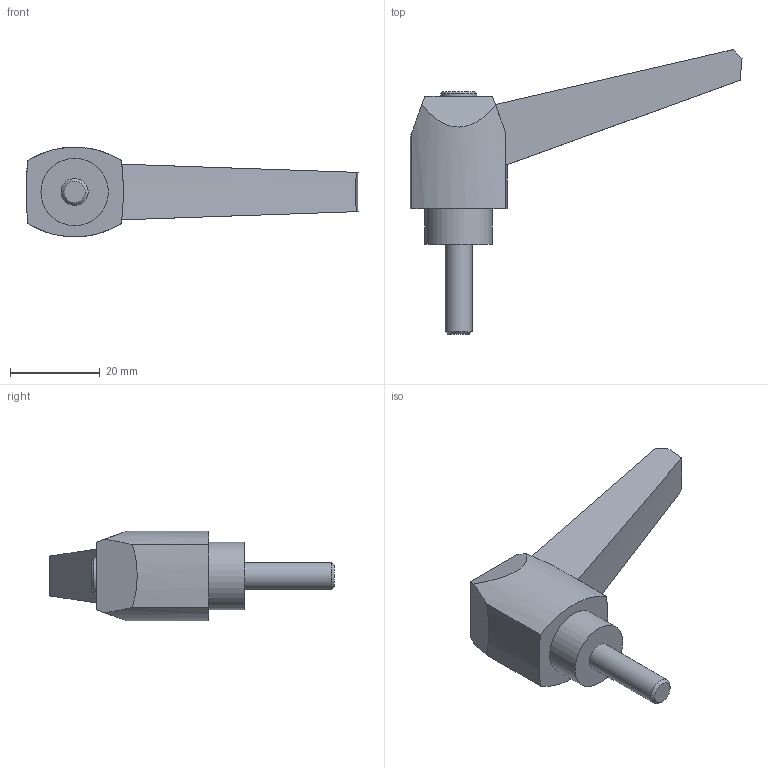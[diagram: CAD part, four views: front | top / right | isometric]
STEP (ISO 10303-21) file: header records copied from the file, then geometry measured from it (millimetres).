
FILE_DESCRIPTION( ( 'STEP AP203' ), '1' );
FILE_NAME( 'C:/Temp/Ganter_Step_05_03_2020/data/2_1/gn_500/gn_500_ms/Adjustable hand lever GN 500-63-M6-20-SW.stp', '2020-03-05T11:26:33', ( 'License CC BY-ND 4.0' ), ( 'CADENAS' ), ' ', 'PARTsolutions', ' ' );
FILE_SCHEMA( ( 'CONFIG_CONTROL_DESIGN' ) );
Length unit declared in the file: millimetre
Products named in the file (1): _Adjustable hand lever GN 500-63-M6-20-SW
Bounding box: 73.9 x 63.35 x 20 mm (x, y, z)
Volume: 17056.5 mm3; surface area: 5345.3 mm2
Topology: 1 solids, 1 shells, 24 faces, 56 edges, 37 vertices
Faces by surface type: plane 11, cylinder 7, cone 6
Full cylindrical faces by diameter (mm): 6 x1, 8 x1, 15 x1
Entity records: 708 total; most frequent: DIRECTION 122, CARTESIAN_POINT 117, ORIENTED_EDGE 100, EDGE_CURVE 50, AXIS2_PLACEMENT_3D 49, VERTEX_POINT 36, EDGE_LOOP 32, FACE_OUTER_BOUND 27
